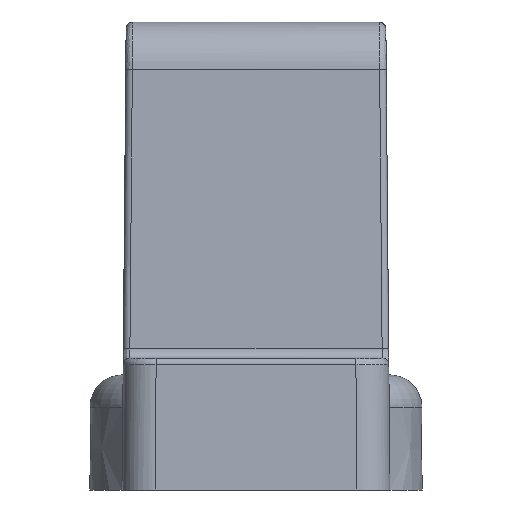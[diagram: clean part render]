
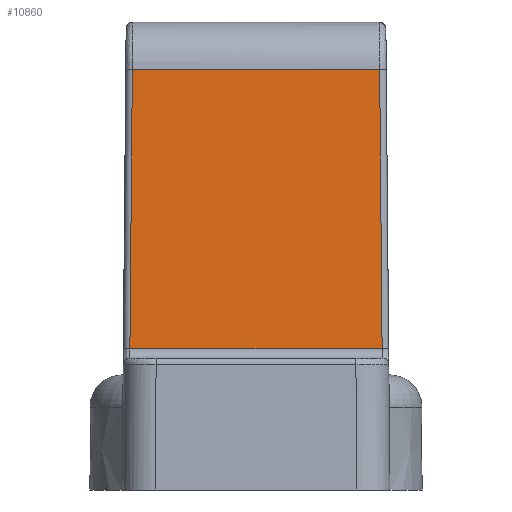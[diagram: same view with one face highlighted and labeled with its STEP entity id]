
A CAD part, left-side view. The second image highlights one B-rep face of the part: STEP entity #10860.
In plain terms, the highlighted planar face has unit normal (-0.999, 0, 0.035).
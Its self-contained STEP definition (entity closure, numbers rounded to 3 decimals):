
#8570=CARTESIAN_POINT('',(1237.557,186.229,
23.052));
#8580=VERTEX_POINT('',#8570);
#8610=CARTESIAN_POINT('',(1237.557,193.734,
23.052));
#8620=DIRECTION('',(0.,-1.,0.));
#8630=VECTOR('',#8620,1.);
#8640=LINE('',#8610,#8630);
#8650=CARTESIAN_POINT('',(1237.557,193.733,
23.052));
#8660=VERTEX_POINT('',#8650);
#8670=EDGE_CURVE('',#8660,#8580,#8640,.T.);
#10560=CARTESIAN_POINT('',(1237.608,109.843,24.5));
#10570=DIRECTION('',(0.999,0.,-0.035));
#10580=DIRECTION('',(0.,-1.,0.));
#10590=AXIS2_PLACEMENT_3D('',#10560,#10570,#10580);
#10600=PLANE('',#10590);
#10610=ORIENTED_EDGE('',*,*,#8670,.F.);
#10620=CARTESIAN_POINT('',(1237.262,186.155,
14.588));
#10630=DIRECTION('',(0.035,0.009,
0.999));
#10640=VECTOR('',#10630,1.);
#10650=LINE('',#10620,#10640);
#10660=CARTESIAN_POINT('',(1237.262,186.155,
14.59));
#10670=VERTEX_POINT('',#10660);
#10680=EDGE_CURVE('',#10670,#8580,#10650,.T.);
#10690=ORIENTED_EDGE('',*,*,#10680,.T.);
#10700=CARTESIAN_POINT('',(1237.262,193.812,
14.59));
#10710=DIRECTION('',(0.,-1.,0.));
#10720=VECTOR('',#10710,1.);
#10730=LINE('',#10700,#10720);
#10740=CARTESIAN_POINT('',(1237.262,193.807,
14.59));
#10750=VERTEX_POINT('',#10740);
#10760=EDGE_CURVE('',#10750,#10670,#10730,.T.);
#10770=ORIENTED_EDGE('',*,*,#10760,.T.);
#10780=CARTESIAN_POINT('',(1237.557,193.733,
23.054));
#10790=DIRECTION('',(-0.035,0.009,
-0.999));
#10800=VECTOR('',#10790,1.);
#10810=LINE('',#10780,#10800);
#10820=EDGE_CURVE('',#8660,#10750,#10810,.T.);
#10830=ORIENTED_EDGE('',*,*,#10820,.T.);
#10840=EDGE_LOOP('',(#10830,#10770,#10690,#10610));
#10850=FACE_OUTER_BOUND('',#10840,.T.);
#10860=ADVANCED_FACE('',(#10850),#10600,.F.);
